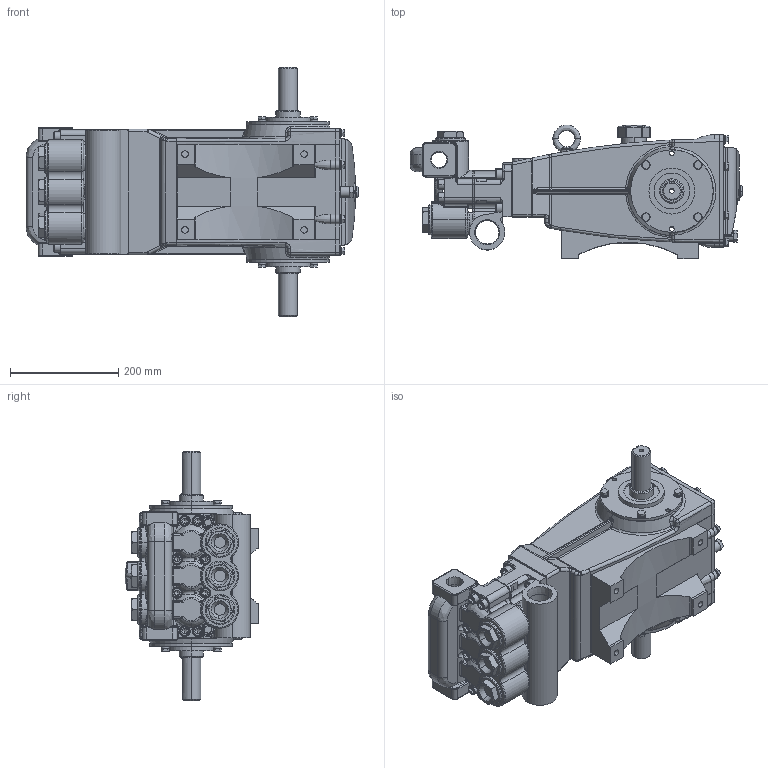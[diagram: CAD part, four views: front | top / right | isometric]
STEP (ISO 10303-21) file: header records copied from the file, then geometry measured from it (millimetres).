
FILE_DESCRIPTION (( 'STEP AP214' ), '1' );
FILE_NAME ('3531.STEP', '2017-09-28T09:10:11', ( '' ), ( '' ), 'SwSTEP 2.0', 'SolidWorks 2017', '' );
FILE_SCHEMA (( 'AUTOMOTIVE_DESIGN' ));
Length unit declared in the file: millimetre
Products named in the file (1): 3531
Bounding box: 613.26 x 247 x 459.99 mm (x, y, z)
Surface area: 822286.8 mm2 (no closed solid volume)
Topology: 0 solids, 33 shells, 1452 faces, 4490 edges, 2809 vertices
Faces by surface type: plane 509, cylinder 472, bspline 399, cone 72
Entity records: 86966 total; most frequent: CARTESIAN_POINT 34455, ORIENTED_EDGE 7553, DIRECTION 7185, EDGE_CURVE 4450, VERTEX_POINT 2809, AXIS2_PLACEMENT_3D 2634, VECTOR 1917, LINE 1917
